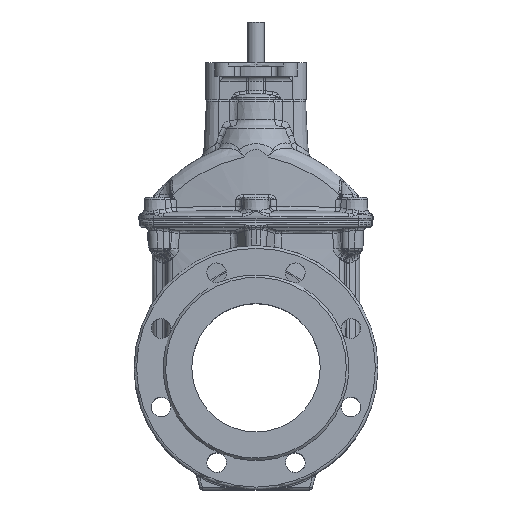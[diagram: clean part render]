
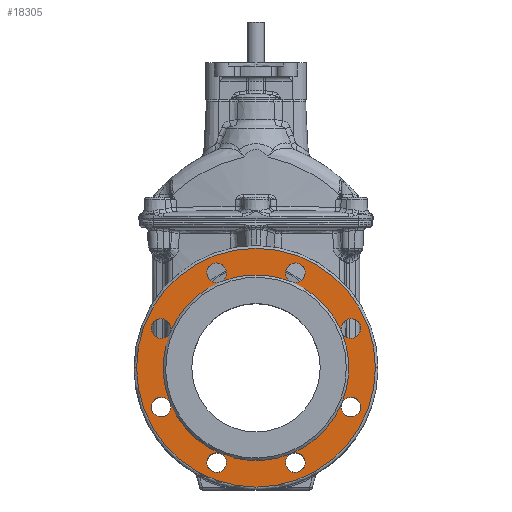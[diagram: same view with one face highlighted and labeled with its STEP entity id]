
A CAD part, top view. The second image highlights one B-rep face of the part: STEP entity #18305.
In plain terms, the highlighted planar face has unit normal (0, 0, 1).
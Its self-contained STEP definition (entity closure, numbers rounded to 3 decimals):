
#60 = AXIS2_PLACEMENT_3D ( 'NONE', #15065, #757, #42614 ) ;
#757 = DIRECTION ( 'NONE',  ( 0., 0., 1. ) ) ;
#1367 = CARTESIAN_POINT ( 'NONE',  ( 45.922, 110.866, 102. ) ) ;
#1954 = EDGE_CURVE ( 'NONE', #44644, #44644, #43837, .T. ) ;
#2000 = ORIENTED_EDGE ( 'NONE', *, *, #26144, .F. ) ;
#2107 = ORIENTED_EDGE ( 'NONE', *, *, #25108, .F. ) ;
#2518 = CIRCLE ( 'NONE', #34494, 108.5 ) ;
#2536 = CIRCLE ( 'NONE', #32342, 108.5 ) ;
#4426 = CARTESIAN_POINT ( 'NONE',  ( 45.922, -110.866, 102. ) ) ;
#4448 = CARTESIAN_POINT ( 'NONE',  ( 0., 0., 102. ) ) ;
#5187 = VERTEX_POINT ( 'NONE', #32105 ) ;
#5248 = CIRCLE ( 'NONE', #16871, 108.5 ) ;
#5277 = CARTESIAN_POINT ( 'NONE',  ( -100.241, 41.521, 102. ) ) ;
#5436 = DIRECTION ( 'NONE',  ( 1., 0., 0. ) ) ;
#5694 = VERTEX_POINT ( 'NONE', #40917 ) ;
#5767 = AXIS2_PLACEMENT_3D ( 'NONE', #30575, #26926, #44679 ) ;
#6446 = DIRECTION ( 'NONE',  ( 0., 0., -1. ) ) ;
#6735 = DIRECTION ( 'NONE',  ( 1., 0., 0. ) ) ;
#7214 = EDGE_CURVE ( 'NONE', #37708, #37708, #15934, .T. ) ;
#7528 = CARTESIAN_POINT ( 'NONE',  ( 139.5, 0., 102. ) ) ;
#7673 = CIRCLE ( 'NONE', #15661, 11.5 ) ;
#8405 = DIRECTION ( 'NONE',  ( 0., 0., 1. ) ) ;
#8656 = ORIENTED_EDGE ( 'NONE', *, *, #34164, .F. ) ;
#8895 = DIRECTION ( 'NONE',  ( 1., 0., 0. ) ) ;
#9329 = AXIS2_PLACEMENT_3D ( 'NONE', #34295, #20171, #27229 ) ;
#9724 = ORIENTED_EDGE ( 'NONE', *, *, #41526, .T. ) ;
#10242 = CARTESIAN_POINT ( 'NONE',  ( -45.922, -110.866, 102. ) ) ;
#10723 = VERTEX_POINT ( 'NONE', #7528 ) ;
#11363 = DIRECTION ( 'NONE',  ( 0., 0., -1. ) ) ;
#11795 = CIRCLE ( 'NONE', #34316, 11.5 ) ;
#11825 = CARTESIAN_POINT ( 'NONE',  ( 0., 0., 102. ) ) ;
#12058 = DIRECTION ( 'NONE',  ( 0., 0., 1. ) ) ;
#12438 = EDGE_LOOP ( 'NONE', ( #19469 ) ) ;
#13370 = AXIS2_PLACEMENT_3D ( 'NONE', #16971, #27660, #6735 ) ;
#13684 = EDGE_CURVE ( 'NONE', #15153, #15153, #32663, .T. ) ;
#13777 = AXIS2_PLACEMENT_3D ( 'NONE', #10242, #20704, #44389 ) ;
#14237 = DIRECTION ( 'NONE',  ( 0., 0., 1. ) ) ;
#14263 = EDGE_CURVE ( 'NONE', #21939, #28069, #28222, .T. ) ;
#14459 = DIRECTION ( 'NONE',  ( 0., 0., 1. ) ) ;
#15065 = CARTESIAN_POINT ( 'NONE',  ( -45.922, 110.866, 102. ) ) ;
#15153 = VERTEX_POINT ( 'NONE', #19228 ) ;
#15267 = AXIS2_PLACEMENT_3D ( 'NONE', #25897, #29770, #5436 ) ;
#15366 = ORIENTED_EDGE ( 'NONE', *, *, #14263, .F. ) ;
#15453 = DIRECTION ( 'NONE',  ( 1., 0., 0. ) ) ;
#15661 = AXIS2_PLACEMENT_3D ( 'NONE', #32808, #30058, #43946 ) ;
#15776 = CARTESIAN_POINT ( 'NONE',  ( 0., 0., 102. ) ) ;
#15934 = CIRCLE ( 'NONE', #13777, 11.5 ) ;
#16239 = AXIS2_PLACEMENT_3D ( 'NONE', #16295, #37226, #16739 ) ;
#16295 = CARTESIAN_POINT ( 'NONE',  ( 0., 0., 102. ) ) ;
#16739 = DIRECTION ( 'NONE',  ( 1., 0., 0. ) ) ;
#16871 = AXIS2_PLACEMENT_3D ( 'NONE', #32080, #12058, #15453 ) ;
#16930 = EDGE_CURVE ( 'NONE', #15153, #37708, #41404, .T. ) ;
#16971 = CARTESIAN_POINT ( 'NONE',  ( -110.866, 45.922, 102. ) ) ;
#17185 = AXIS2_PLACEMENT_3D ( 'NONE', #15776, #29664, #43545 ) ;
#17648 = CARTESIAN_POINT ( 'NONE',  ( -110.866, -45.922, 102. ) ) ;
#18241 = CARTESIAN_POINT ( 'NONE',  ( 41.521, -100.241, 102. ) ) ;
#18246 = DIRECTION ( 'NONE',  ( 0., 0., 1. ) ) ;
#18293 = DIRECTION ( 'NONE',  ( -1., 0., 0. ) ) ;
#18305 = ADVANCED_FACE ( 'NONE', ( #32971, #36607 ), #43648, .T. ) ;
#19228 = CARTESIAN_POINT ( 'NONE',  ( -100.241, -41.521, 102. ) ) ;
#19469 = ORIENTED_EDGE ( 'NONE', *, *, #43469, .T. ) ;
#19655 = EDGE_CURVE ( 'NONE', #21939, #21939, #34230, .T. ) ;
#20171 = DIRECTION ( 'NONE',  ( 0., 0., 1. ) ) ;
#20495 = AXIS2_PLACEMENT_3D ( 'NONE', #11825, #8405, #22275 ) ;
#20601 = CIRCLE ( 'NONE', #20495, 108.5 ) ;
#20704 = DIRECTION ( 'NONE',  ( 0., 0., 1. ) ) ;
#20815 = EDGE_CURVE ( 'NONE', #25826, #5694, #32790, .T. ) ;
#21939 = VERTEX_POINT ( 'NONE', #40088 ) ;
#22207 = EDGE_CURVE ( 'NONE', #5694, #5694, #11795, .T. ) ;
#22275 = DIRECTION ( 'NONE',  ( 1., 0., 0. ) ) ;
#22788 = CARTESIAN_POINT ( 'NONE',  ( 0., 0., 102. ) ) ;
#23868 = DIRECTION ( 'NONE',  ( 1., 0., 0. ) ) ;
#25048 = CARTESIAN_POINT ( 'NONE',  ( -41.521, -100.241, 102. ) ) ;
#25108 = EDGE_CURVE ( 'NONE', #5694, #21939, #33715, .T. ) ;
#25287 = DIRECTION ( 'NONE',  ( 1., 0., 0. ) ) ;
#25826 = VERTEX_POINT ( 'NONE', #42500 ) ;
#25897 = CARTESIAN_POINT ( 'NONE',  ( 0., 108.5, 102. ) ) ;
#26144 = EDGE_CURVE ( 'NONE', #28069, #28069, #32984, .T. ) ;
#26926 = DIRECTION ( 'NONE',  ( 0., 0., 1. ) ) ;
#27229 = DIRECTION ( 'NONE',  ( 1., 0., 0. ) ) ;
#27660 = DIRECTION ( 'NONE',  ( 0., 0., 1. ) ) ;
#28069 = VERTEX_POINT ( 'NONE', #5277 ) ;
#28222 = CIRCLE ( 'NONE', #9329, 108.5 ) ;
#28856 = ORIENTED_EDGE ( 'NONE', *, *, #20815, .F. ) ;
#29523 = EDGE_CURVE ( 'NONE', #28069, #15153, #2518, .T. ) ;
#29664 = DIRECTION ( 'NONE',  ( 0., 0., 1. ) ) ;
#29770 = DIRECTION ( 'NONE',  ( 0., 0., 1. ) ) ;
#30058 = DIRECTION ( 'NONE',  ( 0., 0., -1. ) ) ;
#30294 = CARTESIAN_POINT ( 'NONE',  ( 0., 0., 102. ) ) ;
#30575 = CARTESIAN_POINT ( 'NONE',  ( 0., 0., 102. ) ) ;
#30785 = DIRECTION ( 'NONE',  ( -1., 0., 0. ) ) ;
#30888 = EDGE_LOOP ( 'NONE', ( #34961, #41540, #36366, #42930, #33690, #2000, #15366, #41470, #2107, #44435, #28856, #9724, #8656, #34186, #40907, #33477 ) ) ;
#31541 = DIRECTION ( 'NONE',  ( 1., 0., 0. ) ) ;
#31679 = CARTESIAN_POINT ( 'NONE',  ( 110.866, -45.922, 102. ) ) ;
#32080 = CARTESIAN_POINT ( 'NONE',  ( 0., 0., 102. ) ) ;
#32105 = CARTESIAN_POINT ( 'NONE',  ( 100.241, -41.521, 102. ) ) ;
#32329 = EDGE_CURVE ( 'NONE', #5187, #5187, #33228, .T. ) ;
#32342 = AXIS2_PLACEMENT_3D ( 'NONE', #30294, #37338, #8895 ) ;
#32663 = CIRCLE ( 'NONE', #42864, 11.5 ) ;
#32790 = CIRCLE ( 'NONE', #38593, 108.5 ) ;
#32808 = CARTESIAN_POINT ( 'NONE',  ( 110.866, 45.922, 102. ) ) ;
#32971 = FACE_OUTER_BOUND ( 'NONE', #12438, .T. ) ;
#32984 = CIRCLE ( 'NONE', #13370, 11.5 ) ;
#33228 = CIRCLE ( 'NONE', #44815, 11.5 ) ;
#33477 = ORIENTED_EDGE ( 'NONE', *, *, #1954, .T. ) ;
#33690 = ORIENTED_EDGE ( 'NONE', *, *, #29523, .F. ) ;
#33715 = CIRCLE ( 'NONE', #16239, 108.5 ) ;
#34164 = EDGE_CURVE ( 'NONE', #5187, #25826, #5248, .T. ) ;
#34186 = ORIENTED_EDGE ( 'NONE', *, *, #32329, .T. ) ;
#34230 = CIRCLE ( 'NONE', #60, 11.5 ) ;
#34279 = EDGE_CURVE ( 'NONE', #37708, #44644, #20601, .T. ) ;
#34295 = CARTESIAN_POINT ( 'NONE',  ( 0., 0., 102. ) ) ;
#34316 = AXIS2_PLACEMENT_3D ( 'NONE', #1367, #11363, #39580 ) ;
#34494 = AXIS2_PLACEMENT_3D ( 'NONE', #22788, #18246, #25287 ) ;
#34961 = ORIENTED_EDGE ( 'NONE', *, *, #34279, .F. ) ;
#36366 = ORIENTED_EDGE ( 'NONE', *, *, #16930, .F. ) ;
#36607 = FACE_BOUND ( 'NONE', #30888, .T. ) ;
#37226 = DIRECTION ( 'NONE',  ( 0., 0., 1. ) ) ;
#37338 = DIRECTION ( 'NONE',  ( 0., 0., 1. ) ) ;
#37708 = VERTEX_POINT ( 'NONE', #25048 ) ;
#38593 = AXIS2_PLACEMENT_3D ( 'NONE', #4448, #14459, #23868 ) ;
#38982 = CIRCLE ( 'NONE', #17185, 139.5 ) ;
#39467 = EDGE_CURVE ( 'NONE', #44644, #5187, #2536, .T. ) ;
#39580 = DIRECTION ( 'NONE',  ( -1., 0., 0. ) ) ;
#40088 = CARTESIAN_POINT ( 'NONE',  ( -41.521, 100.241, 102. ) ) ;
#40907 = ORIENTED_EDGE ( 'NONE', *, *, #39467, .F. ) ;
#40917 = CARTESIAN_POINT ( 'NONE',  ( 41.521, 100.241, 102. ) ) ;
#41404 = CIRCLE ( 'NONE', #5767, 108.5 ) ;
#41470 = ORIENTED_EDGE ( 'NONE', *, *, #19655, .F. ) ;
#41526 = EDGE_CURVE ( 'NONE', #25826, #25826, #7673, .T. ) ;
#41540 = ORIENTED_EDGE ( 'NONE', *, *, #7214, .F. ) ;
#41633 = AXIS2_PLACEMENT_3D ( 'NONE', #4426, #42434, #18293 ) ;
#42434 = DIRECTION ( 'NONE',  ( 0., 0., -1. ) ) ;
#42500 = CARTESIAN_POINT ( 'NONE',  ( 100.241, 41.521, 102. ) ) ;
#42614 = DIRECTION ( 'NONE',  ( 1., 0., 0. ) ) ;
#42864 = AXIS2_PLACEMENT_3D ( 'NONE', #17648, #14237, #31541 ) ;
#42930 = ORIENTED_EDGE ( 'NONE', *, *, #13684, .F. ) ;
#43469 = EDGE_CURVE ( 'NONE', #10723, #10723, #38982, .T. ) ;
#43545 = DIRECTION ( 'NONE',  ( 1., 0., 0. ) ) ;
#43648 = PLANE ( 'NONE',  #15267 ) ;
#43837 = CIRCLE ( 'NONE', #41633, 11.5 ) ;
#43946 = DIRECTION ( 'NONE',  ( -1., 0., 0. ) ) ;
#44389 = DIRECTION ( 'NONE',  ( 1., 0., 0. ) ) ;
#44435 = ORIENTED_EDGE ( 'NONE', *, *, #22207, .T. ) ;
#44644 = VERTEX_POINT ( 'NONE', #18241 ) ;
#44679 = DIRECTION ( 'NONE',  ( 1., 0., 0. ) ) ;
#44815 = AXIS2_PLACEMENT_3D ( 'NONE', #31679, #6446, #30785 ) ;
